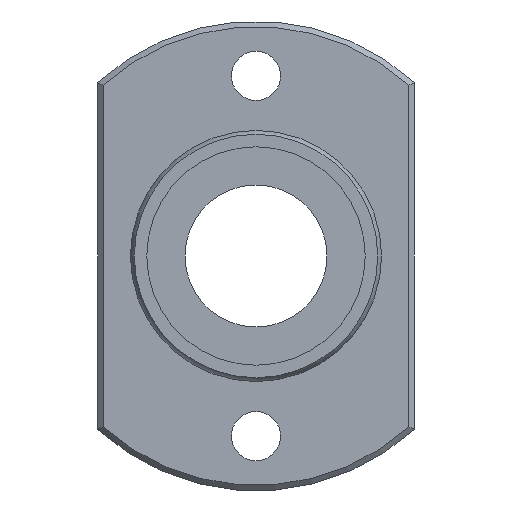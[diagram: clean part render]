
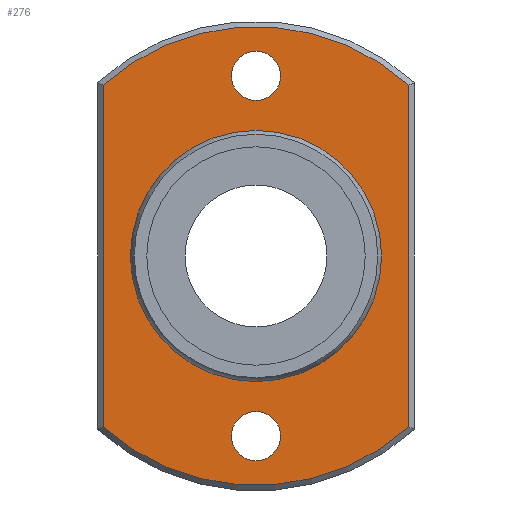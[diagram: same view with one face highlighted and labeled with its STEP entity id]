
A CAD part, left-side view. The second image highlights one B-rep face of the part: STEP entity #276.
In plain terms, the highlighted planar face has unit normal (-1, 0, 0).
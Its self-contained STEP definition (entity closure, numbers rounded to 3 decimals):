
#59=CARTESIAN_POINT('',(6.,14.,-15.652));
#60=VERTEX_POINT('',#59);
#68=CARTESIAN_POINT('',(6.,14.,15.652));
#69=VERTEX_POINT('',#68);
#70=CARTESIAN_POINT('',(6.,14.,-15.652));
#71=DIRECTION('',(0.0,0.0,1.0));
#72=VECTOR('',#71,31.305);
#73=LINE('',#70,#72);
#74=EDGE_CURVE('',#60,#69,#73,.T.);
#101=CARTESIAN_POINT('',(6.,-14.,15.652));
#102=VERTEX_POINT('',#101);
#103=CARTESIAN_POINT('',(6.,0.0,0.0));
#104=DIRECTION('',(1.0,0.0,0.0));
#105=DIRECTION('',(0.0,0.0,1.0));
#106=AXIS2_PLACEMENT_3D('',#103,#104,#105);
#107=CIRCLE('',#106,21.0);
#108=EDGE_CURVE('',#69,#102,#107,.T.);
#134=CARTESIAN_POINT('',(6.,-14.,-15.652));
#135=VERTEX_POINT('',#134);
#136=CARTESIAN_POINT('',(6.,-14.,15.652));
#137=DIRECTION('',(0.0,0.0,-1.0));
#138=VECTOR('',#137,31.305);
#139=LINE('',#136,#138);
#140=EDGE_CURVE('',#102,#135,#139,.T.);
#165=CARTESIAN_POINT('',(6.,0.0,0.0));
#166=DIRECTION('',(1.0,0.0,0.0));
#167=DIRECTION('',(0.0,0.0,-1.0));
#168=AXIS2_PLACEMENT_3D('',#165,#166,#167);
#169=CIRCLE('',#168,21.0);
#170=EDGE_CURVE('',#135,#60,#169,.T.);
#232=CARTESIAN_POINT('',(6.,0.0,16.393));
#233=DIRECTION('',(-1.0,0.0,0.0));
#234=DIRECTION('',(0.0,0.0,1.0));
#235=AXIS2_PLACEMENT_3D('',#232,#233,#234);
#236=PLANE('',#235);
#237=ORIENTED_EDGE('',*,*,#74,.F.);
#238=ORIENTED_EDGE('',*,*,#170,.F.);
#239=ORIENTED_EDGE('',*,*,#140,.F.);
#240=ORIENTED_EDGE('',*,*,#108,.F.);
#241=EDGE_LOOP('',(#237,#238,#239,#240));
#242=FACE_OUTER_BOUND('',#241,.T.);
#243=CARTESIAN_POINT('',(6.,0.0,11.286));
#244=VERTEX_POINT('',#243);
#245=CARTESIAN_POINT('',(6.,0.0,0.0));
#246=DIRECTION('',(-1.0,0.0,0.0));
#247=DIRECTION('',(0.0,0.0,1.0));
#248=AXIS2_PLACEMENT_3D('',#245,#246,#247);
#249=CIRCLE('',#248,11.286);
#250=EDGE_CURVE('',#244,#244,#249,.T.);
#251=ORIENTED_EDGE('',*,*,#250,.F.);
#252=EDGE_LOOP('',(#251));
#253=FACE_BOUND('',#252,.T.);
#254=CARTESIAN_POINT('',(6.,-2.25,-16.5));
#255=VERTEX_POINT('',#254);
#256=CARTESIAN_POINT('',(6.,0.,-16.5));
#257=DIRECTION('',(1.0,0.0,0.0));
#258=DIRECTION('',(0.0,1.0,0.0));
#259=AXIS2_PLACEMENT_3D('',#256,#257,#258);
#260=CIRCLE('',#259,2.25);
#261=EDGE_CURVE('',#255,#255,#260,.T.);
#262=ORIENTED_EDGE('',*,*,#261,.T.);
#263=EDGE_LOOP('',(#262));
#264=FACE_BOUND('',#263,.T.);
#265=CARTESIAN_POINT('',(6.,-2.25,16.5));
#266=VERTEX_POINT('',#265);
#267=CARTESIAN_POINT('',(6.,0.,16.5));
#268=DIRECTION('',(1.0,0.0,0.0));
#269=DIRECTION('',(0.0,1.0,0.0));
#270=AXIS2_PLACEMENT_3D('',#267,#268,#269);
#271=CIRCLE('',#270,2.25);
#272=EDGE_CURVE('',#266,#266,#271,.T.);
#273=ORIENTED_EDGE('',*,*,#272,.T.);
#274=EDGE_LOOP('',(#273));
#275=FACE_BOUND('',#274,.T.);
#276=ADVANCED_FACE('',(#242,#253,#264,#275),#236,.T.);
